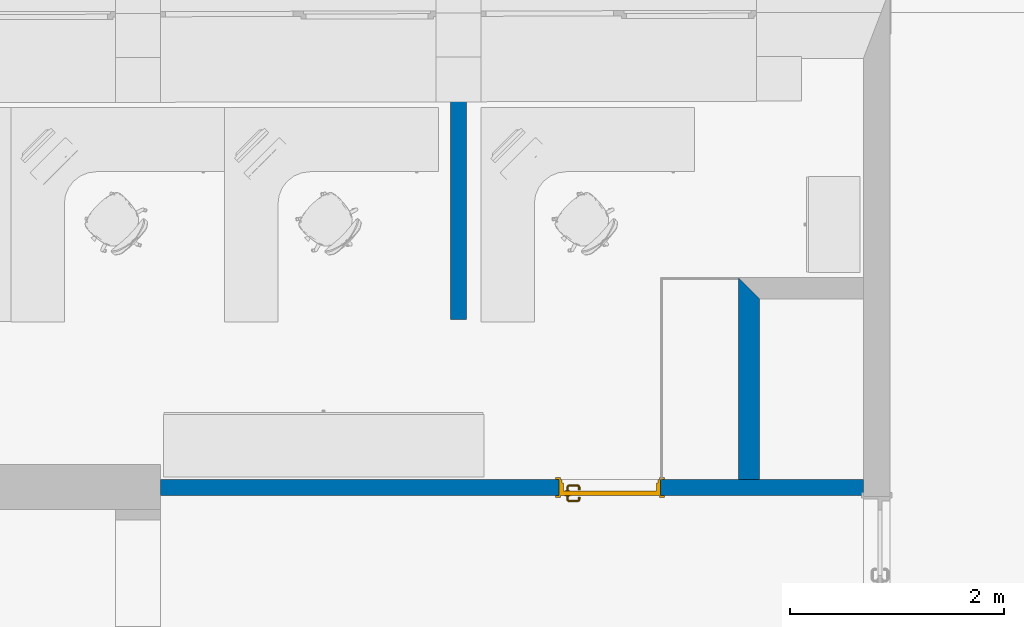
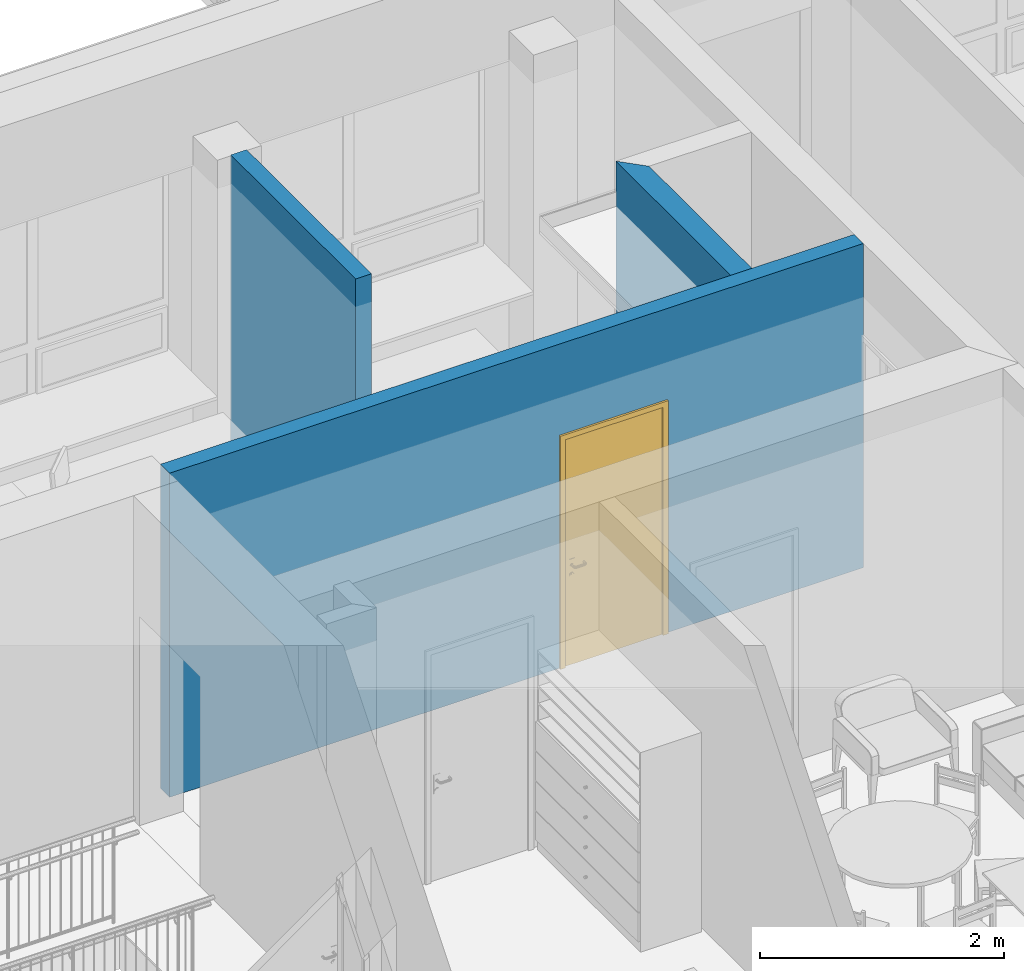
# One storey, part 14 of 194: 3 walls, 1 door, 1 opening.
"""IFC2X3 building model written with IfcOpenShell, lengths in millimetres."""

import ifcopenshell
import ifcopenshell.guid

model = None  # the IFC model being written
_history = None  # IfcOwnerHistory: only IFC2X3 demands one
_inside = {}  # id of a spatial element -> (the spatial element, [elements in it])
_under = {}  # id of a project, library or spatial element -> (it, [spatial elements below it])
_declared = {}  # id of a project -> (the project, [libraries it declares])
_typed = {}  # id of a type object -> (the type object, [elements of that type])
_made_of = {}  # id of a material, layer set ... -> (it, [elements and type objects made of it])


def new_model(schema):
    """Start an empty IFC model of exactly this schema.

    Asked for "IFC4X3", IfcOpenShell would pick the latest addendum, in which some entities
    have other attributes; the version numbers below select the first issue.
    IFC2X3 requires an IfcOwnerHistory on every rooted entity: one is made here for all.
    """
    global model, _history
    if schema == "IFC4X3":
        model = ifcopenshell.file(schema_version=(4, 3, 0, 0))
    else:
        model = ifcopenshell.file(schema=schema)
    _inside.clear()
    _under.clear()
    _declared.clear()
    _typed.clear()
    _made_of.clear()
    _history = None
    if model.schema == "IFC2X3":
        org = make("IfcOrganization", Name="unknown")
        user = make(
            "IfcPersonAndOrganization",
            ThePerson=make("IfcPerson", FamilyName="unknown"),
            TheOrganization=org,
        )
        app = make(
            "IfcApplication",
            ApplicationDeveloper=org,
            Version="unknown",
            ApplicationFullName="unknown",
            ApplicationIdentifier="unknown",
        )
        _history = make(
            "IfcOwnerHistory",
            OwningUser=user,
            OwningApplication=app,
            ChangeAction="ADDED",
            CreationDate=0,
        )
    return model


def make(cls, **values):
    """One entity of the class cls with the attributes given. An attribute that is None is left unset."""
    return model.create_entity(
        cls, **{name: value for name, value in values.items() if value is not None}
    )


def entity(cls, *values):
    """Any entity or typed value of the class cls, its attributes in the order of the schema. None: left unset."""
    e = model.create_entity(cls)
    for i, value in enumerate(values):
        if value is not None:
            e[i] = value
    return e


def rooted(cls, **values):
    """An entity with a GlobalId (a new one), such as an element, a storey or a relation."""
    return make(cls, GlobalId=ifcopenshell.guid.new(), OwnerHistory=_history, **values)


def si_unit(unit_type, name, prefix=None):
    """IfcSIUnit, for example si_unit("LENGTHUNIT", "METRE", prefix="MILLI")."""
    return make("IfcSIUnit", UnitType=unit_type, Prefix=prefix, Name=name)


def converted_unit(unit_type, name, factor, base, dimensions=None, offset=None):
    """IfcConversionBasedUnit, such as the inch: factor (a typed value) times the base unit."""
    return make(
        "IfcConversionBasedUnit"
        if offset is None
        else "IfcConversionBasedUnitWithOffset",
        ConversionOffset=offset,
        Dimensions=None
        if dimensions is None
        else entity("IfcDimensionalExponents", *dimensions),
        UnitType=unit_type,
        Name=name,
        ConversionFactor=make(
            "IfcMeasureWithUnit", ValueComponent=factor, UnitComponent=base
        ),
    )


def derived_unit(unit_type, elements):
    """IfcDerivedUnit: a product of units, each with its exponent."""
    return make(
        "IfcDerivedUnit",
        Elements=[
            make("IfcDerivedUnitElement", Unit=unit, Exponent=power)
            for unit, power in elements
        ],
        UnitType=unit_type,
    )


def money_unit(currency):
    """IfcMonetaryUnit."""
    return make("IfcMonetaryUnit", Currency=currency)


def assignment(units):
    """IfcUnitAssignment: the units of a project."""
    return None if units is None else make("IfcUnitAssignment", Units=units)


def point(xyz):
    """IfcCartesianPoint."""
    return None if xyz is None else make("IfcCartesianPoint", Coordinates=xyz)


def direction(xyz):
    """IfcDirection."""
    return None if xyz is None else make("IfcDirection", DirectionRatios=xyz)


def frame(location, z_axis=None, x_axis=None):
    """IfcAxis2Placement3D, a coordinate frame: its origin and axes. An axis left out is left unset."""
    return make(
        "IfcAxis2Placement3D",
        Location=point(location),
        Axis=direction(z_axis),
        RefDirection=direction(x_axis),
    )


def frame_2d(location, x_axis=None):
    """IfcAxis2Placement2D, a coordinate frame in the plane: its origin and x axis."""
    return make(
        "IfcAxis2Placement2D", Location=point(location), RefDirection=direction(x_axis)
    )


def origin_with_axes():
    """The frame at (0, 0, 0) with the z axis (0, 0, 1) and the x axis (1, 0, 0) written out."""
    return frame((0.0, 0.0, 0.0), z_axis=(0.0, 0.0, 1.0), x_axis=(1.0, 0.0, 0.0))


def origin_2d_with_axis():
    """The frame at (0, 0) in the plane with the x axis (1, 0) written out."""
    return frame_2d((0.0, 0.0), x_axis=(1.0, 0.0))


def place(relative_to, where):
    """IfcLocalPlacement: puts the frame where relative to a parent placement (None: the world)."""
    return make(
        "IfcLocalPlacement", PlacementRelTo=relative_to, RelativePlacement=where
    )


def context(
    kind, dimensions, precision=None, world=None, true_north=None, identifier=None
):
    """IfcGeometricRepresentationContext, for example the 3D "Model" context."""
    return make(
        "IfcGeometricRepresentationContext",
        ContextIdentifier=identifier,
        ContextType=kind,
        CoordinateSpaceDimension=dimensions,
        Precision=precision,
        WorldCoordinateSystem=world,
        TrueNorth=true_north,
    )


def subcontext(parent, identifier, kind, view, scale=None):
    """IfcGeometricRepresentationSubContext, for example "Body" below "Model"."""
    return make(
        "IfcGeometricRepresentationSubContext",
        ContextIdentifier=identifier,
        ContextType=kind,
        ParentContext=parent,
        TargetScale=scale,
        TargetView=view,
    )


def project(units=None, contexts=None):
    """IfcProject with its units and contexts."""
    return rooted(
        "IfcProject",
        Name="project",
        RepresentationContexts=contexts,
        UnitsInContext=assignment(units),
    )


def spatial(cls, under=None, at=None, **own):
    """A site, building, storey or space (cls), placed at a placement, below another one or the project."""
    s = rooted(cls, ObjectPlacement=at, **own)
    if under is not None:
        _under.setdefault(under.id(), (under, []))[1].append(s)
    return s


def polyline(points):
    """IfcPolyline through the points."""
    return make("IfcPolyline", Points=[point(p) for p in points])


def profile(cls, at=None, kind="AREA", **sizes):
    """A parametric profile (cls). Its sizes go by their IFC names, for example OverallWidth=200.0."""
    return make(cls, ProfileType=kind, Position=at, **sizes)


def rectangle(**sizes):
    """IfcRectangleProfileDef."""
    return profile("IfcRectangleProfileDef", **sizes)


def outline(outer, holes=None, kind="AREA"):
    """IfcArbitraryClosedProfileDef: a profile drawn as a closed curve; with holes, ...WithVoids."""
    if holes is None:
        return make("IfcArbitraryClosedProfileDef", ProfileType=kind, OuterCurve=outer)
    return make(
        "IfcArbitraryProfileDefWithVoids",
        ProfileType=kind,
        OuterCurve=outer,
        InnerCurves=holes,
    )


def extrude(swept, where, along, depth):
    """IfcExtrudedAreaSolid: the profile swept, set in the frame where, extruded along a direction by depth."""
    return make(
        "IfcExtrudedAreaSolid",
        SweptArea=swept,
        Position=where,
        ExtrudedDirection=direction(along),
        Depth=depth,
    )


def faces_of(points, faces, orient=None, outer=None):
    """IfcFace entities. A face is a list of loops; a loop is a list of indices into points, from 0.

    orient and outer hold one flag for each loop. By default every Orientation is true, the
    first loop of a face is its IfcFaceOuterBound and the others are IfcFaceBound.
    """
    made = []
    for i, loops in enumerate(faces):
        bounds = []
        for j, loop in enumerate(loops):
            is_outer = j == 0 if outer is None else outer[i][j]
            bounds.append(
                make(
                    "IfcFaceOuterBound" if is_outer else "IfcFaceBound",
                    Bound=make("IfcPolyLoop", Polygon=[points[k] for k in loop]),
                    Orientation=True if orient is None else orient[i][j],
                )
            )
        made.append(make("IfcFace", Bounds=bounds))
    return made


def open_shell(faces, orient=None, outer=None):
    """The faces of one IfcOpenShell. surface_model builds it on its shared points."""
    return ("IfcOpenShell", faces, orient, outer)


def faceted_brep(points, faces, orient=None, outer=None, voids=None):
    """IfcFacetedBrep: a solid bounded by flat faces; with voids (closed shells), ...WithVoids."""
    shared = [point(p) for p in points]
    hull = make("IfcClosedShell", CfsFaces=faces_of(shared, faces, orient, outer))
    if voids is None:
        return make("IfcFacetedBrep", Outer=hull)
    return make(
        "IfcFacetedBrepWithVoids",
        Outer=hull,
        Voids=[
            make(cls, CfsFaces=faces_of(shared, fs, o, b)) for cls, fs, o, b in voids
        ],
    )


def surface_model(cls, points, shells):
    """IfcFaceBasedSurfaceModel or IfcShellBasedSurfaceModel (cls): surfaces that need not close."""
    shared = [point(p) for p in points]
    made = [make(c, CfsFaces=faces_of(shared, fs, o, b)) for c, fs, o, b in shells]
    if cls == "IfcFaceBasedSurfaceModel":
        return make(cls, FbsmFaces=made)
    return make(cls, SbsmBoundary=made)


def shape(context_of_items, identifier, shape_type, items):
    """IfcShapeRepresentation: the items that make up one representation, for example the "Body"."""
    return make(
        "IfcShapeRepresentation",
        ContextOfItems=context_of_items,
        RepresentationIdentifier=identifier,
        RepresentationType=shape_type,
        Items=items,
    )


def source(mapping_origin, context_of_items, identifier, shape_type, items):
    """IfcRepresentationMap: a shape defined once, which mapped items show again and again."""
    return make(
        "IfcRepresentationMap",
        MappingOrigin=mapping_origin,
        MappedRepresentation=shape(context_of_items, identifier, shape_type, items),
    )


def transform(
    local_origin,
    x_axis=None,
    y_axis=None,
    z_axis=None,
    scale=None,
    scale2=None,
    scale3=None,
    uniform=True,
):
    """IfcCartesianTransformationOperator3D, or its non-uniform kind. x_axis, y_axis, z_axis: its Axis1, 2, 3."""
    if uniform:
        return make(
            "IfcCartesianTransformationOperator3D",
            Axis1=direction(x_axis),
            Axis2=direction(y_axis),
            LocalOrigin=point(local_origin),
            Scale=scale,
            Axis3=direction(z_axis),
        )
    return make(
        "IfcCartesianTransformationOperator3DnonUniform",
        Axis1=direction(x_axis),
        Axis2=direction(y_axis),
        LocalOrigin=point(local_origin),
        Scale=scale,
        Axis3=direction(z_axis),
        Scale2=scale2,
        Scale3=scale3,
    )


def mapped(mapping_source, mapping_target):
    """IfcMappedItem: shows the shape of a source again, moved by a transform."""
    return make(
        "IfcMappedItem", MappingSource=mapping_source, MappingTarget=mapping_target
    )


def material(Name=None, Category=None):
    """IfcMaterial."""
    return make("IfcMaterial", Name=Name, Category=Category)


def layer(
    of_material, thickness, ventilated=None, Name=None, Category=None, Priority=None
):
    """IfcMaterialLayer: one layer of a wall or slab, of a material (None: an air gap)."""
    return make(
        "IfcMaterialLayer",
        Material=of_material,
        LayerThickness=thickness,
        IsVentilated=ventilated,
        Name=Name,
        Category=Category,
        Priority=Priority,
    )


def layer_set(layers, Name=None):
    """IfcMaterialLayerSet."""
    return make("IfcMaterialLayerSet", MaterialLayers=layers, LayerSetName=Name)


def layer_usage(for_layer_set, set_direction, sense, offset, extent=None):
    """IfcMaterialLayerSetUsage: how a layer set lies in its element."""
    return make(
        "IfcMaterialLayerSetUsage",
        ForLayerSet=for_layer_set,
        LayerSetDirection=set_direction,
        DirectionSense=sense,
        OffsetFromReferenceLine=offset,
        ReferenceExtent=extent,
    )


def made_of(thing, what):
    """Note that an element or type object is made of a material, layer set ...; save() writes the relation."""
    if what is not None:
        _made_of.setdefault(what.id(), (what, []))[1].append(thing)
    return thing


def type_object(cls, material=None, **own):
    """A type object (cls), such as IfcWallType, which elements share."""
    return made_of(rooted(cls, **own), material)


def element(
    cls,
    number,
    at=None,
    inside=None,
    cuts=None,
    type_object=None,
    material=None,
    context=None,
    identifier="Body",
    shape_type=None,
    held_by="IfcProductDefinitionShape",
    body=None,
    shapes=None,
    **own,
):
    """One element of the class cls, such as IfcWall. Its Tag is "e" and its number.

    at: its placement. inside: the storey or other place that contains it. cuts: it is an
    opening in that element (IfcRelVoidsElement). A single representation is given by context,
    identifier, shape_type and body (its items); several are given by shapes. held_by: the class
    of the entity that holds the representations. save() writes the other relations.
    """
    e = rooted(cls, Tag="e%d" % number, ObjectPlacement=at, **own)
    if body is not None:
        shapes = [shape(context, identifier, shape_type, body)]
    if shapes is not None:
        e.Representation = make(held_by, Representations=shapes)
    if inside is not None:
        _inside.setdefault(inside.id(), (inside, []))[1].append(e)
    if cuts is not None:
        rooted(
            "IfcRelVoidsElement", RelatingBuildingElement=cuts, RelatedOpeningElement=e
        )
    if type_object is not None:
        _typed.setdefault(type_object.id(), (type_object, []))[1].append(e)
    return made_of(e, material)


def fill(opening, filler):
    """IfcRelFillsElement: the door or window that sits in an opening."""
    return rooted(
        "IfcRelFillsElement",
        RelatingOpeningElement=opening,
        RelatedBuildingElement=filler,
    )


def aggregate(whole, parts):
    """IfcRelAggregates: a whole, such as a stair, and the parts it consists of."""
    return rooted("IfcRelAggregates", RelatingObject=whole, RelatedObjects=parts)


def save(model, path):
    """Write the relations noted so far, then the file.

    IfcRelAggregates (storeys below a building ...), IfcRelContainedInSpatialStructure (elements
    in a storey), IfcRelDefinesByType, IfcRelAssociatesMaterial and IfcRelDeclares: one each for
    every whole, place, type object, material and project.
    """
    for whole, parts in _under.values():
        aggregate(whole, parts)
    for where, things in _inside.values():
        rooted(
            "IfcRelContainedInSpatialStructure",
            RelatedElements=things,
            RelatingStructure=where,
        )
    for kind, things in _typed.values():
        rooted("IfcRelDefinesByType", RelatedObjects=things, RelatingType=kind)
    for what, things in _made_of.values():
        rooted("IfcRelAssociatesMaterial", RelatedObjects=things, RelatingMaterial=what)
    for by, libraries in _declared.values():
        rooted("IfcRelDeclares", RelatingContext=by, RelatedDefinitions=libraries)
    model.write(path)


model = new_model("IFC2X3")

# Units and contexts
model_context = context("Model", 3, precision=1e-05, world=origin_with_axes(), true_north=direction((0.0, 1.0)))
body_context = subcontext(model_context, "Body", "Model", "MODEL_VIEW")
ifc_project = project(units=[si_unit("LENGTHUNIT", "METRE", prefix="MILLI"), si_unit("AREAUNIT", "SQUARE_METRE"), si_unit("VOLUMEUNIT", "CUBIC_METRE"), converted_unit("PLANEANGLEUNIT", "DEGREE", entity("IfcPlaneAngleMeasure", 0.0174532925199), si_unit("PLANEANGLEUNIT", "RADIAN"), dimensions=[0, 0, 0, 0, 0, 0, 0]), si_unit("SOLIDANGLEUNIT", "STERADIAN"), money_unit("EUR"), converted_unit("TIMEUNIT", "Year", entity("IfcTimeMeasure", 31556926.0), si_unit("TIMEUNIT", "SECOND"), dimensions=[0, 0, 1, 0, 0, 0, 0]), si_unit("MASSUNIT", "GRAM", prefix="KILO"), si_unit("THERMODYNAMICTEMPERATUREUNIT", "DEGREE_CELSIUS"), si_unit("LUMINOUSINTENSITYUNIT", "LUMEN"), si_unit("ENERGYUNIT", "JOULE", prefix="MEGA"), derived_unit("THERMALCONDUCTANCEUNIT", [(si_unit("POWERUNIT", "WATT"), 1), (si_unit("LENGTHUNIT", "METRE"), -1), (si_unit("THERMODYNAMICTEMPERATUREUNIT", "KELVIN"), -1)]), derived_unit("SPECIFICHEATCAPACITYUNIT", [(si_unit("ENERGYUNIT", "JOULE"), 1), (si_unit("MASSUNIT", "GRAM", prefix="KILO"), -1), (si_unit("THERMODYNAMICTEMPERATUREUNIT", "KELVIN"), -1)]), derived_unit("MASSDENSITYUNIT", [(si_unit("MASSUNIT", "GRAM", prefix="KILO"), 1), (si_unit("VOLUMEUNIT", "CUBIC_METRE"), -1)])], contexts=[model_context])

# Site, building, storey
site_placement = place(None, origin_with_axes())
site = spatial("IfcSite", under=ifc_project, at=site_placement, Name="Site", CompositionType="ELEMENT")
building_placement = place(site_placement, origin_with_axes())
building = spatial("IfcBuilding", under=site, at=building_placement, Name="Building", CompositionType="ELEMENT")
storey_placement = place(building_placement, frame((0.0, 0.0, 3000.0), z_axis=(0.0, 0.0, 1.0), x_axis=(1.0, 0.0, 0.0)))
storey = spatial("IfcBuildingStorey", under=building, at=storey_placement, Name="2 KORRUS", CompositionType="ELEMENT", Elevation=3000.0)

# Wall, opening, door
ifc_material_1 = material(Name="Kivi -Ol.Olev Konstruktsioon")
ifc_layer_1 = layer(ifc_material_1, 150.0, ventilated="UNKNOWN")
ifc_layer_set_1 = layer_set([ifc_layer_1], Name="ol.olev ss 150")
ifc_layer_usage_1 = layer_usage(ifc_layer_set_1, "AXIS2", "NEGATIVE", 150.0)
wall_type_1 = type_object("IfcWallType", Name="SW - 022", PredefinedType="NOTDEFINED")
wall_1_placement = place(storey_placement, frame((31155.3687563, 42800.5530107, 0.0), z_axis=(0.0, 0.0, 1.0), x_axis=(1.0, 0.0, 0.0)))
wall_1 = element("IfcWallStandardCase", 1, at=wall_1_placement, inside=storey, type_object=wall_type_1, material=ifc_layer_usage_1, Name="ol.olev ss 150", context=body_context, shape_type="SweptSolid", body=[
    extrude(outline(polyline([(0.0, 0.0), (6578.4832578, 0.0), (6578.4832578, 150.0), (0.0, 150.0), (0.0, 0.0)])), origin_with_axes(), (0.0, 0.0, 1.0), 3250.0),
])
opening_placement = place(wall_1_placement, frame((4206.13742279, 0.0, 0.0), z_axis=(0.0, 0.0, 1.0), x_axis=(1.0, 0.0, 0.0)))
opening = element("IfcOpeningElement", 2, at=opening_placement, cuts=wall_1, Name="Siseuks * Door 22", context=body_context, shape_type="SweptSolid", body=[
    extrude(rectangle(XDim=950.0, YDim=2300.0, at=origin_2d_with_axis()), frame((0.0, 150.0, 1150.0), z_axis=(0.0, 1.0, 0.0), x_axis=(1.0, 0.0, 0.0)), (0.0, 0.0, -1.0), 450.0),
    extrude(rectangle(XDim=1024.0, YDim=2337.0, at=origin_2d_with_axis()), frame((0.0, 150.0, 1168.5), z_axis=(0.0, 1.0, 0.0), x_axis=(1.0, 0.0, 0.0)), (0.0, 0.0, 1.0), 150.0),
    extrude(rectangle(XDim=1024.0, YDim=2337.0, at=origin_2d_with_axis()), frame((0.0, 0.0, 1168.5), z_axis=(0.0, -1.0, 0.0), x_axis=(1.0, 0.0, 0.0)), (0.0, 0.0, 1.0), 150.0),
])
door_style = type_object("IfcDoorStyle", Name="SU-B212   950×2\xa0300", ConstructionType="NOTDEFINED", OperationType="SINGLE_SWING_LEFT", ParameterTakesPrecedence=False, Sizeable=False)
shared_shape = source(origin_with_axes(), body_context, "Body", "SurfaceModel", [
    faceted_brep([(475.0, -115.0, 0.0), (475.0, -150.0, 0.0), (450.0, -150.0, 0.0), (450.0, -115.0, 0.0), (475.0, -115.0, 2300.0), (475.0, -150.0, 2300.0), (450.0, -150.0, 2275.0), (450.0, -115.0, 2275.0)], [[[0, 1, 2, 3]], [[4, 5, 1, 0]], [[1, 5, 6, 2]], [[3, 2, 6, 7]], [[0, 3, 7, 4]], [[7, 6, 5, 4]]]),
    faceted_brep([(-475.0, -115.0, 2300.0), (-475.0, -150.0, 2300.0), (-450.0, -150.0, 2275.0), (-450.0, -115.0, 2275.0), (-475.0, -115.0, 0.0), (-475.0, -150.0, 0.0), (-450.0, -150.0, 0.0), (-450.0, -115.0, 0.0)], [[[0, 1, 2, 3]], [[4, 5, 1, 0]], [[1, 5, 6, 2]], [[3, 2, 6, 7]], [[0, 3, 7, 4]], [[7, 6, 5, 4]]]),
    faceted_brep([(450.0, -115.0, 2275.0), (450.0, -150.0, 2275.0), (-450.0, -150.0, 2275.0), (-450.0, -115.0, 2275.0), (475.0, -115.0, 2300.0), (475.0, -150.0, 2300.0), (-475.0, -150.0, 2300.0), (-475.0, -115.0, 2300.0)], [[[0, 1, 2, 3]], [[4, 5, 1, 0]], [[1, 5, 6, 2]], [[3, 2, 6, 7]], [[0, 3, 7, 4]], [[7, 6, 5, 4]]]),
    faceted_brep([(512.0, -169.0, 0.0), (462.0, -169.0, 0.0), (462.0, -150.0, 0.0), (512.0, -150.0, 0.0), (512.0, -169.0, 2337.0), (462.0, -169.0, 2287.0), (462.0, -150.0, 2287.0), (512.0, -150.0, 2337.0)], [[[0, 1, 2, 3]], [[0, 4, 5, 1]], [[1, 5, 6, 2]], [[3, 2, 6, 7]], [[4, 0, 3, 7]], [[5, 4, 7, 6]]]),
    faceted_brep([(-512.0, -169.0, 2337.0), (-462.0, -169.0, 2287.0), (-462.0, -150.0, 2287.0), (-512.0, -150.0, 2337.0), (-512.0, -169.0, 0.0), (-462.0, -169.0, 0.0), (-462.0, -150.0, 0.0), (-512.0, -150.0, 0.0)], [[[0, 1, 2, 3]], [[0, 4, 5, 1]], [[1, 5, 6, 2]], [[3, 2, 6, 7]], [[4, 0, 3, 7]], [[5, 4, 7, 6]]]),
    faceted_brep([(512.0, -169.0, 2337.0), (462.0, -169.0, 2287.0), (462.0, -150.0, 2287.0), (512.0, -150.0, 2337.0), (-512.0, -169.0, 2337.0), (-462.0, -169.0, 2287.0), (-462.0, -150.0, 2287.0), (-512.0, -150.0, 2337.0)], [[[0, 1, 2, 3]], [[0, 4, 5, 1]], [[1, 5, 6, 2]], [[3, 2, 6, 7]], [[4, 0, 3, 7]], [[5, 4, 7, 6]]]),
    faceted_brep([(512.0, 19.0, 0.0), (512.0, 0.0, 0.0), (462.0, 0.0, 0.0), (462.0, 19.0, 0.0), (512.0, 19.0, 2337.0), (512.0, 0.0, 2337.0), (462.0, 0.0, 2287.0), (462.0, 19.0, 2287.0)], [[[0, 1, 2, 3]], [[4, 5, 1, 0]], [[1, 5, 6, 2]], [[3, 2, 6, 7]], [[0, 3, 7, 4]], [[7, 6, 5, 4]]]),
    faceted_brep([(-512.0, 19.0, 2337.0), (-512.0, 0.0, 2337.0), (-462.0, 0.0, 2287.0), (-462.0, 19.0, 2287.0), (-512.0, 19.0, 0.0), (-512.0, 0.0, 0.0), (-462.0, 0.0, 0.0), (-462.0, 19.0, 0.0)], [[[0, 1, 2, 3]], [[4, 5, 1, 0]], [[1, 5, 6, 2]], [[3, 2, 6, 7]], [[0, 3, 7, 4]], [[7, 6, 5, 4]]]),
    faceted_brep([(512.0, 19.0, 2337.0), (512.0, 0.0, 2337.0), (462.0, 0.0, 2287.0), (462.0, 19.0, 2287.0), (-512.0, 19.0, 2337.0), (-512.0, 0.0, 2337.0), (-462.0, 0.0, 2287.0), (-462.0, 19.0, 2287.0)], [[[0, 1, 2, 3]], [[4, 5, 1, 0]], [[1, 5, 6, 2]], [[3, 2, 6, 7]], [[0, 3, 7, 4]], [[7, 6, 5, 4]]]),
    faceted_brep([(435.0, -40.0, 0.0), (435.0, -115.0, 0.0), (435.0, -115.0, 2260.0), (435.0, -40.0, 2260.0), (447.0, -40.0, 0.0), (447.0, 0.0, 0.0), (475.0, 0.0, 0.0), (475.0, -115.0, 0.0), (475.0, -115.0, 2260.0), (447.0, -40.0, 2260.0), (475.0, 0.0, 2260.0), (447.0, 0.0, 2260.0)], [[[0, 1, 2, 3]], [[4, 5, 6, 7, 1, 0]], [[1, 7, 8, 2]], [[9, 3, 2, 8, 10, 11]], [[9, 4, 0, 3]], [[11, 5, 4, 9]], [[11, 10, 6, 5]], [[6, 10, 8, 7]]]),
    faceted_brep([(-447.0, -40.0, 2260.0), (-447.0, 0.0, 2260.0), (-475.0, 0.0, 2260.0), (-475.0, -115.0, 2260.0), (-435.0, -115.0, 2260.0), (-435.0, -40.0, 2260.0), (-447.0, -40.0, 0.0), (-447.0, 0.0, 0.0), (-475.0, 0.0, 0.0), (-475.0, -115.0, 0.0), (-435.0, -115.0, 0.0), (-435.0, -40.0, 0.0)], [[[0, 1, 2, 3, 4, 5]], [[0, 6, 7, 1]], [[7, 8, 2, 1]], [[2, 8, 9, 3]], [[3, 9, 10, 4]], [[5, 4, 10, 11]], [[5, 11, 6, 0]], [[6, 11, 10, 9, 8, 7]]]),
    faceted_brep([(447.0, 0.0, 2272.0), (-447.0, 0.0, 2272.0), (-447.0, 0.0, 2260.0), (-475.0, 0.0, 2260.0), (-475.0, 0.0, 2300.0), (475.0, 0.0, 2300.0), (475.0, 0.0, 2260.0), (447.0, 0.0, 2260.0), (447.0, -40.0, 2272.0), (-447.0, -40.0, 2272.0), (-447.0, -40.0, 2260.0), (-435.0, -40.0, 2260.0), (-435.0, -115.0, 2260.0), (-475.0, -115.0, 2260.0), (-475.0, -115.0, 2300.0), (475.0, -115.0, 2300.0), (475.0, -115.0, 2260.0), (447.0, -40.0, 2260.0), (435.0, -115.0, 2260.0), (435.0, -40.0, 2260.0)], [[[0, 1, 2, 3, 4, 5, 6, 7]], [[0, 8, 9, 1]], [[1, 9, 10, 2]], [[10, 11, 12, 13, 3, 2]], [[4, 3, 13, 14]], [[5, 4, 14, 15]], [[6, 5, 15, 16]], [[17, 7, 6, 16, 18, 19]], [[7, 17, 8, 0]], [[10, 9, 8, 17, 19, 11]], [[19, 18, 12, 11]], [[12, 18, 16, 15, 14, 13]]]),
    faceted_brep([(425.5, -40.0, 1060.0), (368.5, -40.0, 1060.0), (368.5, -43.0, 1060.0), (425.5, -43.0, 1060.0), (425.5, -40.0, 870.0), (368.5, -40.0, 870.0), (368.5, -43.0, 870.0), (425.5, -43.0, 870.0)], [[[0, 1, 2, 3]], [[0, 4, 5, 1]], [[1, 5, 6, 2]], [[3, 2, 6, 7]], [[4, 0, 3, 7]], [[5, 4, 7, 6]]]),
    surface_model("IfcShellBasedSurfaceModel", [(387.0, -53.0, 1000.0), (389.928932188, -53.0, 992.928932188), (389.928932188, -72.303560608, 992.928932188), (387.0, -72.0150859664, 1000.0), (397.0, -53.0, 990.0), (397.0, -73.0, 990.0), (388.816790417, -77.8946748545, 992.928932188), (386.057796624, -76.751862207, 1000.0), (389.928932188, -53.0, 1007.07106781), (389.928932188, -72.303560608, 1007.07106781), (404.071067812, -53.0, 992.928932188), (404.071067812, -73.696439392, 992.928932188), (395.47759065, -80.6536686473, 990.0), (386.044179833, -82.0441798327, 992.928932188), (383.932537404, -79.9325374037, 1000.0), (388.816790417, -77.8946748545, 1007.07106781), (397.0, -53.0, 1010.0), (397.0, -73.0, 1010.0), (407.0, -53.0, 1000.0), (407.0, -73.9849140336, 1000.0), (402.138390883, -83.4126624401, 992.928932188), (391.142135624, -87.1421356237, 990.0), (381.894674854, -84.8167904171, 992.928932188), (380.751862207, -82.0577966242, 1000.0), (386.044179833, -82.0441798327, 1007.07106781), (395.47759065, -80.6536686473, 1010.0), (404.071067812, -53.0, 1007.07106781), (404.071067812, -73.696439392, 1007.07106781), (404.897384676, -84.5554750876, 1000.0), (396.240091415, -92.2400914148, 992.928932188), (384.653668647, -91.4775906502, 990.0), (376.303560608, -85.9289321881, 992.928932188), (376.015085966, -83.0, 1000.0), (381.894674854, -84.8167904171, 1007.07106781), (391.142135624, -87.1421356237, 1010.0), (402.138390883, -83.4126624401, 1007.07106781), (398.351733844, -94.3517338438, 1000.0), (387.41266244, -98.1383908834, 992.928932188), (377.0, -93.0, 990.0), (307.696439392, -85.9289321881, 992.928932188), (307.984914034, -83.0, 1000.0), (376.303560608, -85.9289321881, 1007.07106781), (384.653668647, -91.4775906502, 1010.0), (396.240091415, -92.2400914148, 1007.07106781), (388.555475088, -100.897384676, 1000.0), (377.696439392, -100.071067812, 992.928932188), (307.0, -93.0, 990.0), (302.105325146, -84.8167904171, 992.928932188), (303.248137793, -82.0577966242, 1000.0), (307.696439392, -85.9289321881, 1007.07106781), (377.0, -93.0, 1010.0), (387.41266244, -98.1383908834, 1007.07106781), (377.984914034, -103.0, 1000.0), (306.303560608, -100.071067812, 992.928932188), (299.346331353, -91.4775906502, 990.0), (297.955820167, -82.0441798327, 992.928932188), (300.067462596, -79.9325374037, 1000.0), (302.105325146, -84.8167904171, 1007.07106781), (307.0, -93.0, 1010.0), (377.696439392, -100.071067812, 1007.07106781), (306.015085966, -103.0, 1000.0), (296.58733756, -98.1383908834, 992.928932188), (292.857864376, -87.1421356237, 990.0), (295.183209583, -77.8946748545, 992.928932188), (297.942203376, -76.751862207, 1000.0), (297.955820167, -82.0441798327, 1007.07106781), (299.346331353, -91.4775906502, 1010.0), (306.303560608, -100.071067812, 1007.07106781), (295.444524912, -100.897384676, 1000.0), (287.759908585, -92.2400914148, 992.928932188), (288.52240935, -80.6536686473, 990.0), (294.071067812, -72.303560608, 992.928932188), (297.0, -72.0150859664, 1000.0), (295.183209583, -77.8946748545, 1007.07106781), (292.857864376, -87.1421356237, 1010.0), (296.58733756, -98.1383908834, 1007.07106781), (285.648266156, -94.3517338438, 1000.0), (281.861609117, -83.4126624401, 992.928932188), (287.0, -73.0, 990.0), (294.071067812, -53.0, 992.928932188), (297.0, -53.0, 1000.0), (294.071067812, -72.303560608, 1007.07106781), (288.52240935, -80.6536686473, 1010.0), (287.759908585, -92.2400914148, 1007.07106781), (279.102615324, -84.5554750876, 1000.0), (279.928932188, -73.696439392, 992.928932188), (287.0, -53.0, 990.0), (279.928932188, -53.0, 992.928932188), (277.0, -53.0, 1000.0), (279.928932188, -53.0, 1007.07106781), (287.0, -53.0, 1010.0), (294.071067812, -53.0, 1007.07106781), (287.0, -73.0, 1010.0), (281.861609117, -83.4126624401, 1007.07106781), (277.0, -73.9849140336, 1000.0), (279.928932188, -73.696439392, 1007.07106781)], [open_shell([[[0, 1, 2, 3]], [[1, 4, 5, 2]], [[3, 2, 6, 7]], [[8, 0, 3, 9]], [[4, 10, 11, 5]], [[2, 5, 12, 6]], [[7, 6, 13, 14]], [[9, 3, 7, 15]], [[16, 8, 9, 17]], [[10, 18, 19, 11]], [[5, 11, 20, 12]], [[6, 12, 21, 13]], [[14, 13, 22, 23]], [[15, 7, 14, 24]], [[17, 9, 15, 25]], [[26, 16, 17, 27]], [[18, 26, 27, 19]], [[11, 19, 28, 20]], [[12, 20, 29, 21]], [[13, 21, 30, 22]], [[23, 22, 31, 32]], [[24, 14, 23, 33]], [[25, 15, 24, 34]], [[27, 17, 25, 35]], [[19, 27, 35, 28]], [[20, 28, 36, 29]], [[21, 29, 37, 30]], [[22, 30, 38, 31]], [[32, 31, 39, 40]], [[33, 23, 32, 41]], [[34, 24, 33, 42]], [[35, 25, 34, 43]], [[28, 35, 43, 36]], [[29, 36, 44, 37]], [[30, 37, 45, 38]], [[31, 38, 46, 39]], [[40, 39, 47, 48]], [[41, 32, 40, 49]], [[42, 33, 41, 50]], [[43, 34, 42, 51]], [[36, 43, 51, 44]], [[37, 44, 52, 45]], [[38, 45, 53, 46]], [[39, 46, 54, 47]], [[48, 47, 55, 56]], [[49, 40, 48, 57]], [[50, 41, 49, 58]], [[51, 42, 50, 59]], [[44, 51, 59, 52]], [[45, 52, 60, 53]], [[46, 53, 61, 54]], [[47, 54, 62, 55]], [[56, 55, 63, 64]], [[57, 48, 56, 65]], [[58, 49, 57, 66]], [[59, 50, 58, 67]], [[52, 59, 67, 60]], [[53, 60, 68, 61]], [[54, 61, 69, 62]], [[55, 62, 70, 63]], [[64, 63, 71, 72]], [[65, 56, 64, 73]], [[66, 57, 65, 74]], [[67, 58, 66, 75]], [[60, 67, 75, 68]], [[61, 68, 76, 69]], [[62, 69, 77, 70]], [[63, 70, 78, 71]], [[72, 71, 79, 80]], [[73, 64, 72, 81]], [[74, 65, 73, 82]], [[75, 66, 74, 83]], [[68, 75, 83, 76]], [[69, 76, 84, 77]], [[70, 77, 85, 78]], [[71, 78, 86, 79]], [[80, 79, 86, 87, 88, 89, 90, 91]], [[81, 72, 80, 91]], [[82, 73, 81, 92]], [[83, 74, 82, 93]], [[76, 83, 93, 84]], [[77, 84, 94, 85]], [[78, 85, 87, 86]], [[85, 94, 88, 87]], [[94, 95, 89, 88]], [[95, 92, 90, 89]], [[92, 81, 91, 90]], [[93, 82, 92, 95]], [[84, 93, 95, 94]]])]),
    faceted_brep([(386.607695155, -53.0, 994.0), (385.0, -53.0, 1000.0), (384.0, -43.0, 1000.0), (385.741669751, -43.0, 993.5), (391.0, -53.0, 989.607695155), (397.0, -53.0, 988.0), (403.0, -53.0, 989.607695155), (407.392304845, -53.0, 994.0), (409.0, -53.0, 1000.0), (407.392304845, -53.0, 1006.0), (403.0, -53.0, 1010.39230485), (397.0, -53.0, 1012.0), (391.0, -53.0, 1010.39230485), (386.607695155, -53.0, 1006.0), (385.741669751, -43.0, 1006.5), (390.5, -43.0, 1011.25833025), (397.0, -43.0, 1013.0), (403.5, -43.0, 1011.25833025), (408.258330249, -43.0, 1006.5), (410.0, -43.0, 1000.0), (408.258330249, -43.0, 993.5), (403.5, -43.0, 988.741669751), (397.0, -43.0, 987.0), (390.5, -43.0, 988.741669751)], [[[0, 1, 2, 3]], [[1, 0, 4, 5, 6, 7, 8, 9, 10, 11, 12, 13]], [[1, 13, 14, 2]], [[2, 14, 15, 16, 17, 18, 19, 20, 21, 22, 23, 3]], [[4, 0, 3, 23]], [[5, 4, 23, 22]], [[6, 5, 22, 21]], [[7, 6, 21, 20]], [[8, 7, 20, 19]], [[9, 8, 19, 18]], [[10, 9, 18, 17]], [[11, 10, 17, 16]], [[12, 11, 16, 15]], [[13, 12, 15, 14]]]),
    faceted_brep([(379.679491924, -47.0, 895.0), (377.0, -47.0, 905.0), (375.0, -43.0, 905.0), (377.947441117, -43.0, 894.0), (387.0, -47.0, 887.679491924), (397.0, -47.0, 885.0), (407.0, -47.0, 887.679491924), (414.320508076, -47.0, 895.0), (417.0, -47.0, 905.0), (414.320508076, -47.0, 915.0), (407.0, -47.0, 922.320508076), (397.0, -47.0, 925.0), (387.0, -47.0, 922.320508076), (379.679491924, -47.0, 915.0), (377.947441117, -43.0, 916.0), (386.0, -43.0, 924.052558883), (397.0, -43.0, 927.0), (408.0, -43.0, 924.052558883), (416.052558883, -43.0, 916.0), (419.0, -43.0, 905.0), (416.052558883, -43.0, 894.0), (408.0, -43.0, 885.947441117), (397.0, -43.0, 883.0), (386.0, -43.0, 885.947441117)], [[[0, 1, 2, 3]], [[1, 0, 4, 5, 6, 7, 8, 9, 10, 11, 12, 13]], [[1, 13, 14, 2]], [[2, 14, 15, 16, 17, 18, 19, 20, 21, 22, 23, 3]], [[4, 0, 3, 23]], [[5, 4, 23, 22]], [[6, 5, 22, 21]], [[7, 6, 21, 20]], [[8, 7, 20, 19]], [[9, 8, 19, 18]], [[10, 9, 18, 17]], [[11, 10, 17, 16]], [[12, 11, 16, 15]], [[13, 12, 15, 14]]]),
    faceted_brep([(392.050252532, -49.0, 909.050252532), (390.0, -49.0, 914.0), (389.0, -47.0, 914.0), (391.343145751, -47.0, 908.343145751), (397.0, -49.0, 907.0), (401.949747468, -49.0, 909.050252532), (404.0, -49.0, 914.0), (401.949747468, -49.0, 918.949747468), (397.0, -49.0, 921.0), (392.050252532, -49.0, 918.949747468), (391.343145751, -47.0, 919.656854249), (397.0, -47.0, 922.0), (402.656854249, -47.0, 919.656854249), (405.0, -47.0, 914.0), (402.656854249, -47.0, 908.343145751), (397.0, -47.0, 906.0)], [[[0, 1, 2, 3]], [[1, 0, 4, 5, 6, 7, 8, 9]], [[1, 9, 10, 2]], [[2, 10, 11, 12, 13, 14, 15, 3]], [[4, 0, 3, 15]], [[5, 4, 15, 14]], [[6, 5, 14, 13]], [[7, 6, 13, 12]], [[8, 7, 12, 11]], [[9, 8, 11, 10]]]),
    faceted_brep([(425.5, 0.0, 1060.0), (425.5, 3.0, 1060.0), (368.5, 3.0, 1060.0), (368.5, 0.0, 1060.0), (425.5, 0.0, 870.0), (425.5, 3.0, 870.0), (368.5, 3.0, 870.0), (368.5, 0.0, 870.0)], [[[0, 1, 2, 3]], [[4, 5, 1, 0]], [[1, 5, 6, 2]], [[3, 2, 6, 7]], [[0, 3, 7, 4]], [[7, 6, 5, 4]]]),
    surface_model("IfcShellBasedSurfaceModel", [(387.0, 13.0, 1000.0), (387.0, 32.0150859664, 1000.0), (389.928932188, 32.303560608, 992.928932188), (389.928932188, 13.0, 992.928932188), (389.928932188, 13.0, 1007.07106781), (389.928932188, 32.303560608, 1007.07106781), (386.057796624, 36.751862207, 1000.0), (388.816790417, 37.8946748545, 992.928932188), (397.0, 33.0, 990.0), (397.0, 13.0, 990.0), (397.0, 13.0, 1010.0), (397.0, 33.0, 1010.0), (388.816790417, 37.8946748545, 1007.07106781), (383.932537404, 39.9325374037, 1000.0), (386.044179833, 42.0441798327, 992.928932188), (395.47759065, 40.6536686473, 990.0), (404.071067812, 33.696439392, 992.928932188), (404.071067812, 13.0, 992.928932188), (404.071067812, 13.0, 1007.07106781), (404.071067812, 33.696439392, 1007.07106781), (395.47759065, 40.6536686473, 1010.0), (386.044179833, 42.0441798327, 1007.07106781), (380.751862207, 42.0577966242, 1000.0), (381.894674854, 44.8167904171, 992.928932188), (391.142135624, 47.1421356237, 990.0), (402.138390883, 43.4126624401, 992.928932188), (407.0, 33.9849140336, 1000.0), (407.0, 13.0, 1000.0), (402.138390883, 43.4126624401, 1007.07106781), (391.142135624, 47.1421356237, 1010.0), (381.894674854, 44.8167904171, 1007.07106781), (376.015085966, 43.0, 1000.0), (376.303560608, 45.9289321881, 992.928932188), (384.653668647, 51.4775906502, 990.0), (396.240091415, 52.2400914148, 992.928932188), (404.897384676, 44.5554750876, 1000.0), (396.240091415, 52.2400914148, 1007.07106781), (384.653668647, 51.4775906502, 1010.0), (376.303560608, 45.9289321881, 1007.07106781), (307.984914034, 43.0, 1000.0), (307.696439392, 45.9289321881, 992.928932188), (377.0, 53.0, 990.0), (387.41266244, 58.1383908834, 992.928932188), (398.351733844, 54.3517338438, 1000.0), (387.41266244, 58.1383908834, 1007.07106781), (377.0, 53.0, 1010.0), (307.696439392, 45.9289321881, 1007.07106781), (303.248137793, 42.0577966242, 1000.0), (302.105325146, 44.8167904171, 992.928932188), (307.0, 53.0, 990.0), (377.696439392, 60.0710678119, 992.928932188), (388.555475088, 60.8973846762, 1000.0), (377.696439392, 60.0710678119, 1007.07106781), (307.0, 53.0, 1010.0), (302.105325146, 44.8167904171, 1007.07106781), (300.067462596, 39.9325374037, 1000.0), (297.955820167, 42.0441798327, 992.928932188), (299.346331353, 51.4775906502, 990.0), (306.303560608, 60.0710678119, 992.928932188), (377.984914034, 63.0, 1000.0), (306.303560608, 60.0710678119, 1007.07106781), (299.346331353, 51.4775906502, 1010.0), (297.955820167, 42.0441798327, 1007.07106781), (297.942203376, 36.751862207, 1000.0), (295.183209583, 37.8946748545, 992.928932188), (292.857864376, 47.1421356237, 990.0), (296.58733756, 58.1383908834, 992.928932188), (306.015085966, 63.0, 1000.0), (296.58733756, 58.1383908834, 1007.07106781), (292.857864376, 47.1421356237, 1010.0), (295.183209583, 37.8946748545, 1007.07106781), (297.0, 32.0150859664, 1000.0), (294.071067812, 32.303560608, 992.928932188), (288.52240935, 40.6536686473, 990.0), (287.759908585, 52.2400914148, 992.928932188), (295.444524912, 60.8973846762, 1000.0), (287.759908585, 52.2400914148, 1007.07106781), (288.52240935, 40.6536686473, 1010.0), (294.071067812, 32.303560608, 1007.07106781), (297.0, 13.0, 1000.0), (294.071067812, 13.0, 992.928932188), (287.0, 33.0, 990.0), (281.861609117, 43.4126624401, 992.928932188), (285.648266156, 54.3517338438, 1000.0), (281.861609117, 43.4126624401, 1007.07106781), (287.0, 33.0, 1010.0), (294.071067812, 13.0, 1007.07106781), (287.0, 13.0, 1010.0), (279.928932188, 13.0, 1007.07106781), (277.0, 13.0, 1000.0), (279.928932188, 13.0, 992.928932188), (287.0, 13.0, 990.0), (279.928932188, 33.696439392, 992.928932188), (279.102615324, 44.5554750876, 1000.0), (279.928932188, 33.696439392, 1007.07106781), (277.0, 33.9849140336, 1000.0)], [open_shell([[[0, 1, 2, 3]], [[4, 5, 1, 0]], [[1, 6, 7, 2]], [[3, 2, 8, 9]], [[10, 11, 5, 4]], [[5, 12, 6, 1]], [[6, 13, 14, 7]], [[2, 7, 15, 8]], [[9, 8, 16, 17]], [[18, 19, 11, 10]], [[11, 20, 12, 5]], [[12, 21, 13, 6]], [[13, 22, 23, 14]], [[7, 14, 24, 15]], [[8, 15, 25, 16]], [[17, 16, 26, 27]], [[27, 26, 19, 18]], [[19, 28, 20, 11]], [[20, 29, 21, 12]], [[21, 30, 22, 13]], [[22, 31, 32, 23]], [[14, 23, 33, 24]], [[15, 24, 34, 25]], [[16, 25, 35, 26]], [[26, 35, 28, 19]], [[28, 36, 29, 20]], [[29, 37, 30, 21]], [[30, 38, 31, 22]], [[31, 39, 40, 32]], [[23, 32, 41, 33]], [[24, 33, 42, 34]], [[25, 34, 43, 35]], [[35, 43, 36, 28]], [[36, 44, 37, 29]], [[37, 45, 38, 30]], [[38, 46, 39, 31]], [[39, 47, 48, 40]], [[32, 40, 49, 41]], [[33, 41, 50, 42]], [[34, 42, 51, 43]], [[43, 51, 44, 36]], [[44, 52, 45, 37]], [[45, 53, 46, 38]], [[46, 54, 47, 39]], [[47, 55, 56, 48]], [[40, 48, 57, 49]], [[41, 49, 58, 50]], [[42, 50, 59, 51]], [[51, 59, 52, 44]], [[52, 60, 53, 45]], [[53, 61, 54, 46]], [[54, 62, 55, 47]], [[55, 63, 64, 56]], [[48, 56, 65, 57]], [[49, 57, 66, 58]], [[50, 58, 67, 59]], [[59, 67, 60, 52]], [[60, 68, 61, 53]], [[61, 69, 62, 54]], [[62, 70, 63, 55]], [[63, 71, 72, 64]], [[56, 64, 73, 65]], [[57, 65, 74, 66]], [[58, 66, 75, 67]], [[67, 75, 68, 60]], [[68, 76, 69, 61]], [[69, 77, 70, 62]], [[70, 78, 71, 63]], [[71, 79, 80, 72]], [[64, 72, 81, 73]], [[65, 73, 82, 74]], [[66, 74, 83, 75]], [[75, 83, 76, 68]], [[76, 84, 77, 69]], [[77, 85, 78, 70]], [[78, 86, 79, 71]], [[79, 86, 87, 88, 89, 90, 91, 80]], [[72, 80, 91, 81]], [[73, 81, 92, 82]], [[74, 82, 93, 83]], [[83, 93, 84, 76]], [[84, 94, 85, 77]], [[85, 87, 86, 78]], [[94, 88, 87, 85]], [[95, 89, 88, 94]], [[92, 90, 89, 95]], [[81, 91, 90, 92]], [[82, 92, 95, 93]], [[93, 95, 94, 84]]])]),
    faceted_brep([(386.607695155, 13.0, 994.0), (385.741669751, 3.0, 993.5), (384.0, 3.0, 1000.0), (385.0, 13.0, 1000.0), (391.0, 13.0, 989.607695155), (390.5, 3.0, 988.741669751), (397.0, 3.0, 987.0), (403.5, 3.0, 988.741669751), (408.258330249, 3.0, 993.5), (410.0, 3.0, 1000.0), (408.258330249, 3.0, 1006.5), (403.5, 3.0, 1011.25833025), (397.0, 3.0, 1013.0), (390.5, 3.0, 1011.25833025), (385.741669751, 3.0, 1006.5), (386.607695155, 13.0, 1006.0), (391.0, 13.0, 1010.39230485), (397.0, 13.0, 1012.0), (403.0, 13.0, 1010.39230485), (407.392304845, 13.0, 1006.0), (409.0, 13.0, 1000.0), (407.392304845, 13.0, 994.0), (403.0, 13.0, 989.607695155), (397.0, 13.0, 988.0)], [[[0, 1, 2, 3]], [[4, 5, 1, 0]], [[2, 1, 5, 6, 7, 8, 9, 10, 11, 12, 13, 14]], [[3, 2, 14, 15]], [[3, 15, 16, 17, 18, 19, 20, 21, 22, 23, 4, 0]], [[23, 6, 5, 4]], [[22, 7, 6, 23]], [[21, 8, 7, 22]], [[20, 9, 8, 21]], [[19, 10, 9, 20]], [[18, 11, 10, 19]], [[17, 12, 11, 18]], [[16, 13, 12, 17]], [[15, 14, 13, 16]]]),
    faceted_brep([(379.679491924, 7.0, 895.0), (377.947441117, 3.0, 894.0), (375.0, 3.0, 905.0), (377.0, 7.0, 905.0), (387.0, 7.0, 887.679491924), (386.0, 3.0, 885.947441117), (397.0, 3.0, 883.0), (408.0, 3.0, 885.947441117), (416.052558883, 3.0, 894.0), (419.0, 3.0, 905.0), (416.052558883, 3.0, 916.0), (408.0, 3.0, 924.052558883), (397.0, 3.0, 927.0), (386.0, 3.0, 924.052558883), (377.947441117, 3.0, 916.0), (379.679491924, 7.0, 915.0), (387.0, 7.0, 922.320508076), (397.0, 7.0, 925.0), (407.0, 7.0, 922.320508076), (414.320508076, 7.0, 915.0), (417.0, 7.0, 905.0), (414.320508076, 7.0, 895.0), (407.0, 7.0, 887.679491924), (397.0, 7.0, 885.0)], [[[0, 1, 2, 3]], [[4, 5, 1, 0]], [[2, 1, 5, 6, 7, 8, 9, 10, 11, 12, 13, 14]], [[3, 2, 14, 15]], [[3, 15, 16, 17, 18, 19, 20, 21, 22, 23, 4, 0]], [[23, 6, 5, 4]], [[22, 7, 6, 23]], [[21, 8, 7, 22]], [[20, 9, 8, 21]], [[19, 10, 9, 20]], [[18, 11, 10, 19]], [[17, 12, 11, 18]], [[16, 13, 12, 17]], [[15, 14, 13, 16]]]),
    faceted_brep([(392.050252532, 9.0, 909.050252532), (391.343145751, 7.0, 908.343145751), (389.0, 7.0, 914.0), (390.0, 9.0, 914.0), (397.0, 9.0, 907.0), (397.0, 7.0, 906.0), (402.656854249, 7.0, 908.343145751), (405.0, 7.0, 914.0), (402.656854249, 7.0, 919.656854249), (397.0, 7.0, 922.0), (391.343145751, 7.0, 919.656854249), (392.050252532, 9.0, 918.949747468), (397.0, 9.0, 921.0), (401.949747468, 9.0, 918.949747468), (404.0, 9.0, 914.0), (401.949747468, 9.0, 909.050252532)], [[[0, 1, 2, 3]], [[4, 5, 1, 0]], [[2, 1, 5, 6, 7, 8, 9, 10]], [[3, 2, 10, 11]], [[3, 11, 12, 13, 14, 15, 4, 0]], [[15, 6, 5, 4]], [[14, 7, 6, 15]], [[13, 8, 7, 14]], [[12, 9, 8, 13]], [[11, 10, 9, 12]]]),
    faceted_brep([(-447.0, 0.0, 0.0), (447.0, 0.0, 0.0), (447.0, -40.0, 0.0), (-447.0, -40.0, 0.0), (-447.0, 0.0, 2272.0), (447.0, 0.0, 2272.0), (447.0, -40.0, 2272.0), (-447.0, -40.0, 2272.0)], [[[0, 1, 2, 3]], [[0, 4, 5, 1]], [[1, 5, 6, 2]], [[3, 2, 6, 7]], [[4, 0, 3, 7]], [[5, 4, 7, 6]]]),
])
door_placement = place(opening_placement, frame((475.0, 0.0, 0.0), z_axis=(0.0, 0.0, 1.0), x_axis=(-1.0, 0.0, 0.0)))
door = element("IfcDoor", 3, at=door_placement, inside=storey, type_object=door_style, Name="Siseuks * Door 22", OverallHeight=2300.0, OverallWidth=950.0, context=body_context, shape_type="MappedRepresentation", body=[
    mapped(shared_shape, transform((475.0, 0.0, 0.0))),
])
fill(opening, door)

# Walls
ifc_layer_2 = layer(ifc_material_1, 200.0, ventilated="UNKNOWN")
ifc_layer_set_2 = layer_set([ifc_layer_2], Name="ol.olev ss 200")
ifc_layer_usage_2 = layer_usage(ifc_layer_set_2, "AXIS2", "POSITIVE", -200.0)
wall_type_2 = type_object("IfcWallType", Name="SW - 023", PredefinedType="NOTDEFINED")
wall_2_placement = place(storey_placement, frame((36562.6842923, 42800.5530107, 0.0), z_axis=(0.0, 0.0, 1.0), x_axis=(0.0, 1.0, 0.0)))
element("IfcWallStandardCase", 4, at=wall_2_placement, inside=storey, type_object=wall_type_2, material=ifc_layer_usage_2, Name="ol.olev ss 200", context=body_context, shape_type="SweptSolid", body=[
    extrude(outline(polyline([(150.0, -200.0), (1838.13408792, -200.0), (2038.13408792, 0.0), (150.0, 0.0), (150.0, -200.0)])), origin_with_axes(), (0.0, 0.0, 1.0), 3250.0),
])
ifc_material_2 = material(Name="Kivi -  Uus Konstruktsioon")
ifc_layer_3 = layer(ifc_material_2, 150.0, ventilated="UNKNOWN")
ifc_layer_set_3 = layer_set([ifc_layer_3], Name="uus ss 150")
ifc_layer_usage_3 = layer_usage(ifc_layer_set_3, "AXIS2", "NEGATIVE", 0.0)
wall_type_3 = type_object("IfcWallType", Name="SS-2", PredefinedType="NOTDEFINED")
wall_3_placement = place(storey_placement, frame((34018.5555483, 46498.2607965, 0.0), z_axis=(0.0, 0.0, 1.0), x_axis=(0.0, -1.0, 0.0)))
element("IfcWallStandardCase", 5, at=wall_3_placement, inside=storey, type_object=wall_type_3, material=ifc_layer_usage_3, Name="uus ss 150", context=body_context, shape_type="SweptSolid", body=[
    extrude(outline(polyline([(0.0, -150.0), (2052.9239936, -150.0), (2052.9239936, 0.0), (0.0, 0.0), (0.0, -150.0)])), origin_with_axes(), (0.0, 0.0, 1.0), 3250.0),
])

save(model, "model.ifc")
